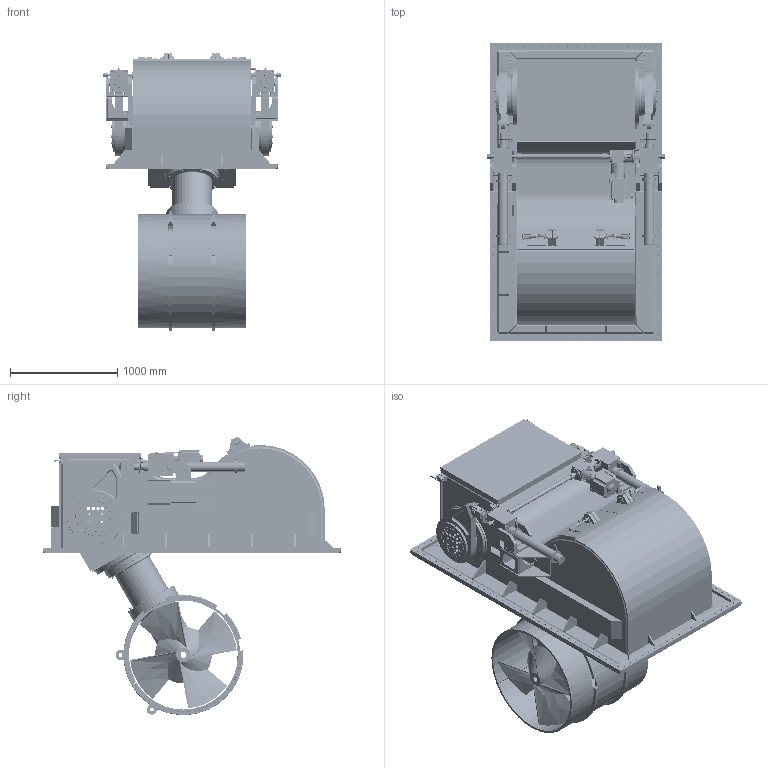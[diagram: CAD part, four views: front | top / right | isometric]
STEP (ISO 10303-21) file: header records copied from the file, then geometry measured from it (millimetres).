
FILE_DESCRIPTION(/* description */ (''),/* implementation_level */ '2;1');
FILE_NAME(/* name */ 'Q:\THRUSTERS\THRUSTER SALES & SUPPORT DOCS\THRUSTER Sales\E-S\E-1000-S\E-1000-S-DEPLOYED.stp',/* time_stamp */ '2021-03-24T14:36:33+00:00',/* author */ ('Barney.Webborn'),/* organization */ (''),/* preprocessor_version */ 'ST-DEVELOPER v17.2',/* originating_system */ 'Autodesk Inventor 2019',/* authorisation */ '');
FILE_SCHEMA (('AUTOMOTIVE_DESIGN { 1 0 10303 214 3 1 1 }'));
Products named in the file (1): E-1000-S_Shrinkwrap_1
Bounding box: 1663 x 2775 x 2591.26 mm (x, y, z)
Volume: 551754238.8 mm3; surface area: 54324842.7 mm2
Topology: 18 solids, 18 shells, 5452 faces, 14462 edges, 9263 vertices
Faces by surface type: plane 3260, cylinder 1380, cone 469, torus 249, sphere 48, bspline 46
Full cylindrical faces by diameter (mm): 3 x12, 4.95 x4, 5.5 x4, 7 x8, 7.2 x4, 7.5 x4, 8 x4, 8.5 x8, 10 x8, 12 x10, 13 x8, 13.041 x16, 15.3 x1, 15.6 x2, 16 x14, 16.5 x130, 16.75 x24, 17 x114, 17.29 x16, 17.5 x20, 18.376 x4, 20 x4, 20.5 x8, 21.735 x8, 22 x8, 23.75 x2, 24 x12, 24.995 x16, 25 x15, 26.25 x2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
Entity records: 178838 total; most frequent: CARTESIAN_POINT 35212, DIRECTION 29284, ORIENTED_EDGE 28524, EDGE_CURVE 14262, AXIS2_PLACEMENT_3D 10290, VERTEX_POINT 9263, LINE 8704, VECTOR 8704
